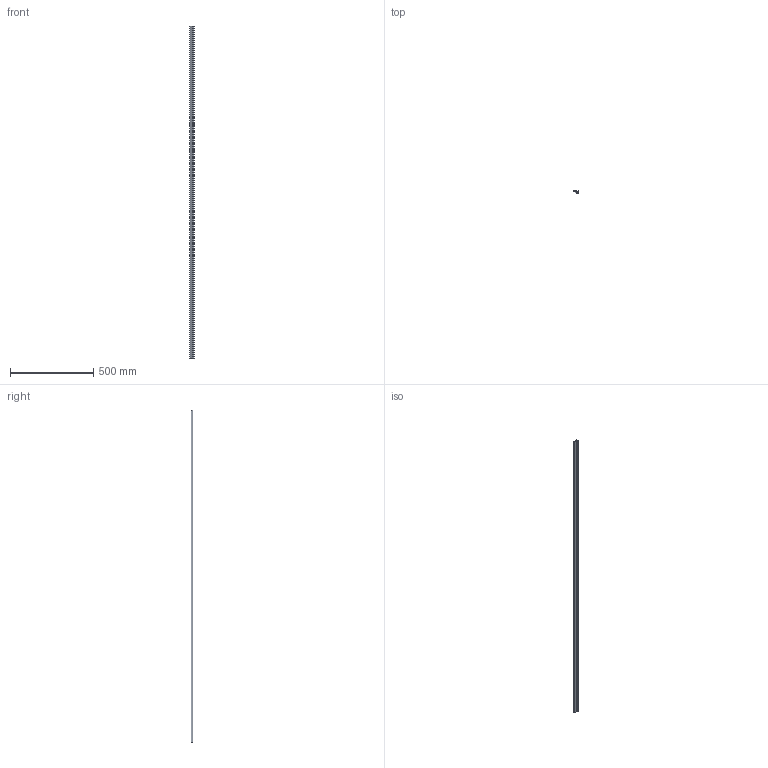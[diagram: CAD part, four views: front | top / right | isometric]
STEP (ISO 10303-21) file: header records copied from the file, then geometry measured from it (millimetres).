
FILE_DESCRIPTION (( 'STEP AP214' ), '1' );
FILE_NAME ('P20662L2.STEP', '2024-01-24T08:45:45', ( '' ), ( '' ), 'SwSTEP 2.0', 'SolidWorks 2022', '' );
FILE_SCHEMA (( 'AUTOMOTIVE_DESIGN' ));
Length unit declared in the file: millimetre
Products named in the file (1): P20662L2
Bounding box: 25 x 10.5 x 2000 mm (x, y, z)
Volume: 369743.4 mm3; surface area: 144233.7 mm2
Topology: 1 solids, 1 shells, 11 faces, 27 edges, 18 vertices
Faces by surface type: plane 10, cylinder 1
Entity records: 357 total; most frequent: CARTESIAN_POINT 57, ORIENTED_EDGE 54, DIRECTION 53, EDGE_CURVE 27, LINE 25, VECTOR 25, VERTEX_POINT 18, AXIS2_PLACEMENT_3D 14
